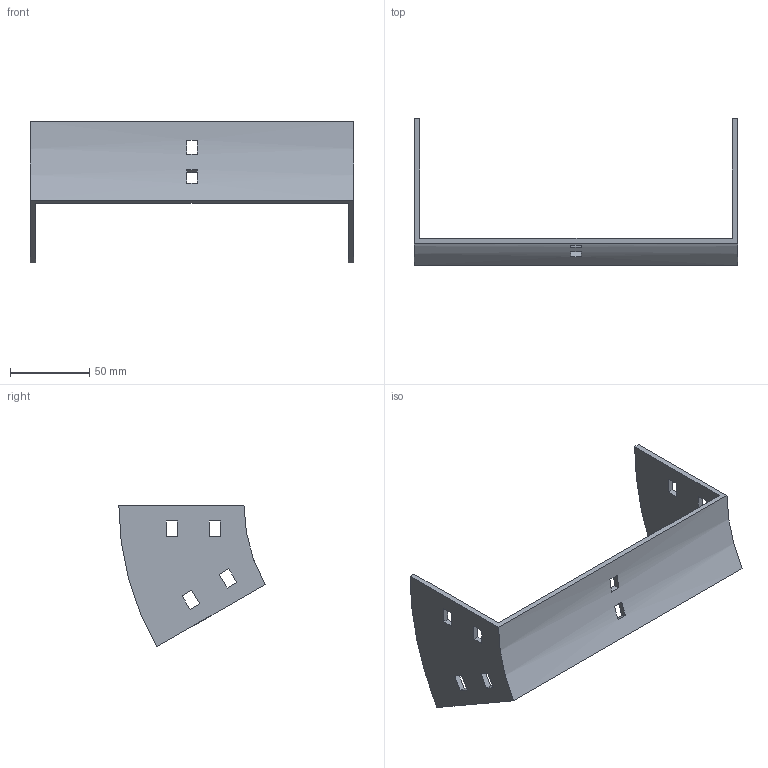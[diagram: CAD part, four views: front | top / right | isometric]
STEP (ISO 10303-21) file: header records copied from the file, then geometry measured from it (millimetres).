
FILE_DESCRIPTION (( 'STEP AP214' ), '1' );
FILE_NAME ('35B1C200.step', '2025-02-21T09:26:28', ( '' ), ( '' ), 'SwSTEP 2.0', 'SolidWorks 2023', '' );
FILE_SCHEMA (( 'AUTOMOTIVE_DESIGN' ));
Length unit declared in the file: millimetre
Products named in the file (1): 35B1C200
Bounding box: 204 x 92.4 x 89.5 mm (x, y, z)
Volume: 74751 mm3; surface area: 47021.6 mm2
Topology: 1 solids, 1 shells, 50 faces, 144 edges, 96 vertices
Faces by surface type: plane 46, cylinder 4
Entity records: 1687 total; most frequent: CARTESIAN_POINT 291, ORIENTED_EDGE 288, DIRECTION 262, EDGE_CURVE 144, VECTOR 128, LINE 128, VERTEX_POINT 96, EDGE_LOOP 70
